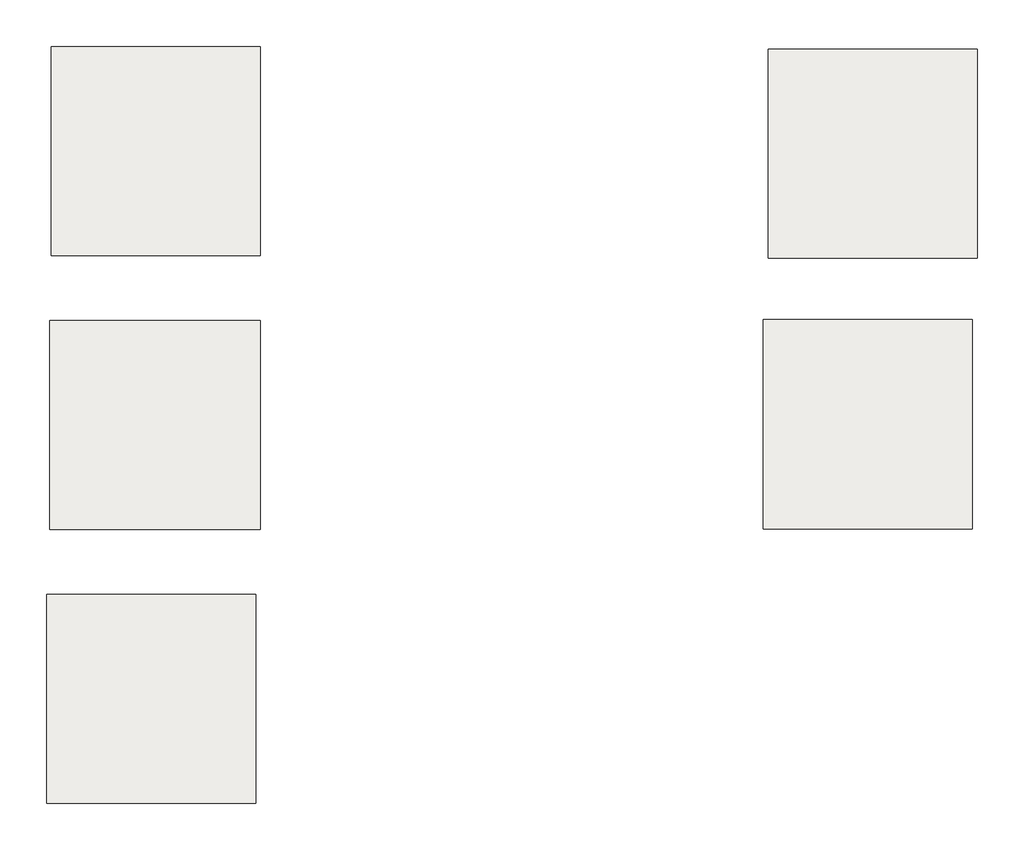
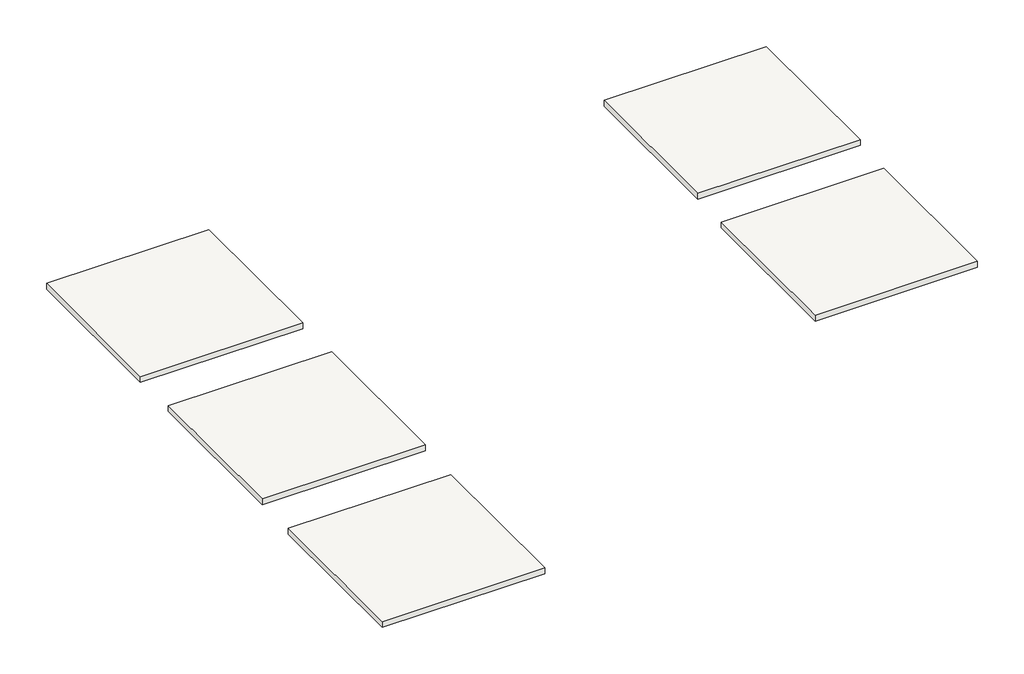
# One storey: 5 slabs.
"""IFC4 building model written with IfcOpenShell, lengths in millimetres."""

from ifc_helpers import new_model, si_unit, frame, origin, place, context, project, spatial, polyline, outline, extrude, element, save

model = new_model("IFC4")

# Units and contexts
model_context = context("Model", 3, world=origin())
ifc_project = project(units=[si_unit("LENGTHUNIT", "METRE", prefix="MILLI")], contexts=[model_context])

# Site, building, storey
site = spatial("IfcSite", under=ifc_project)
building = spatial("IfcBuilding", under=site)
storey = spatial("IfcBuildingStorey", under=building, Name="Edgewood - Apollo 1\" Thickness Black", Elevation=0.0)

# Slabs
placement = place(None, origin())
element("IfcSlab", 1, ObjectType="Starfield - Eclipse 1m x 1m", at=placement, inside=storey, context=model_context, shape_type="SweptSolid", body=[
    extrude(outline(polyline([(-1782.8133421, 9945.8400538), (-1782.8133421, 8945.8420538), (-2782.8113421, 8945.8420538), (-2782.8113421, 9945.8400538), (-1782.8133421, 9945.8400538)])), frame((0.0, 0.0, -38.1), z_axis=(0.0, 0.0, 1.0), x_axis=(1.0, 0.0, 0.0)), (0.0, 0.0, 1.0), 38.1),
])
element("IfcSlab", 2, ObjectType="Starfield - Eve 1m x 1m", at=placement, inside=storey, context=model_context, shape_type="SweptSolid", body=[
    extrude(outline(polyline([(-1782.8133421, 8636.2573087), (-1782.8133421, 7636.2593087), (-2788.182483, 7636.2593087), (-2788.182483, 8636.2573087), (-1782.8133421, 8636.2573087)])), frame((0.0, 0.0, -38.1), z_axis=(0.0, 0.0, 1.0), x_axis=(1.0, 0.0, 0.0)), (0.0, 0.0, 1.0), 38.1),
])
element("IfcSlab", 3, ObjectType="Starfield - Moon 1m x 1m", at=placement, inside=storey, context=model_context, shape_type="SweptSolid", body=[
    extrude(outline(polyline([(-1804.3705323, 7326.6745637), (-1804.3705323, 6326.6765637), (-2804.3685323, 6326.6765637), (-2804.3685323, 7326.6745637), (-1804.3705323, 7326.6745637)])), frame((0.0, 0.0, -38.1), z_axis=(0.0, 0.0, 1.0), x_axis=(1.0, 0.0, 0.0)), (0.0, 0.0, 1.0), 38.1),
])
element("IfcSlab", 4, ObjectType="Starfield - Tide 1m x 1m", at=placement, inside=storey, context=model_context, shape_type="SweptSolid", body=[
    extrude(outline(polyline([(1644.6651034, 9933.8543625), (1644.6651034, 8933.8563625), (644.6671034, 8933.8563625), (644.6671034, 9933.8543625), (1644.6651034, 9933.8543625)])), frame((0.0, 0.0, -38.1), z_axis=(0.0, 0.0, 1.0), x_axis=(1.0, 0.0, 0.0)), (0.0, 0.0, 1.0), 38.1),
])
element("IfcSlab", 5, ObjectType="Starfield - Umbra 1m x 1m", at=placement, inside=storey, context=model_context, shape_type="SweptSolid", body=[
    extrude(outline(polyline([(1620.8965714, 8639.7498404), (1620.8965714, 7639.7518404), (620.8985714, 7639.7518404), (620.8985714, 8639.7498404), (1620.8965714, 8639.7498404)])), frame((0.0, 0.0, -38.1), z_axis=(0.0, 0.0, 1.0), x_axis=(1.0, 0.0, 0.0)), (0.0, 0.0, 1.0), 38.1),
])

save(model, "model.ifc")
